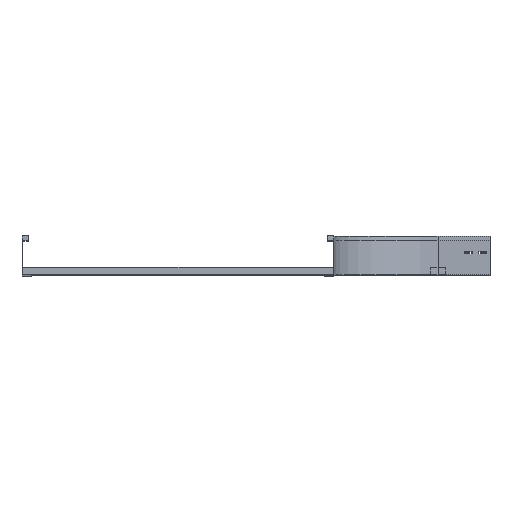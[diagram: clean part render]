
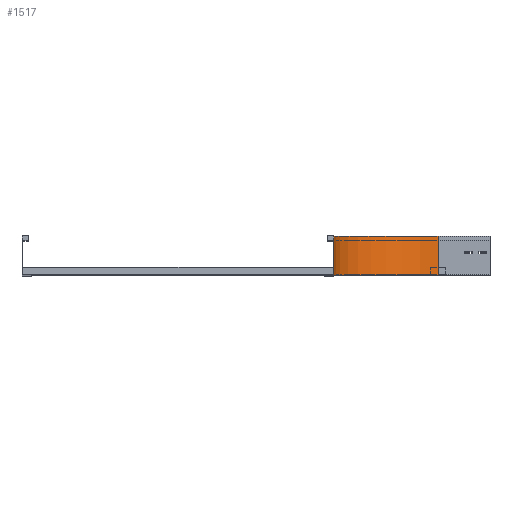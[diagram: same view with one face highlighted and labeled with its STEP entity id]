
A CAD part, top view. The second image highlights one B-rep face of the part: STEP entity #1517.
In plain terms, the highlighted cylindrical face has radius 300 mm (diameter 600 mm), a partial arc.
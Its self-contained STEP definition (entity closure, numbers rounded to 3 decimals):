
#2 = VECTOR ( 'NONE', #3170, 1000. ) ;
#235 = DIRECTION ( 'NONE',  ( -1., 0., 0. ) ) ;
#318 = VERTEX_POINT ( 'NONE', #3096 ) ;
#321 = DIRECTION ( 'NONE',  ( 0., 0., -1. ) ) ;
#341 = FACE_OUTER_BOUND ( 'NONE', #3531, .T. ) ;
#543 = EDGE_CURVE ( 'NONE', #318, #2869, #2296, .T. ) ;
#622 = CARTESIAN_POINT ( 'NONE',  ( 0., 112.5, -150. ) ) ;
#889 = CARTESIAN_POINT ( 'NONE',  ( 0., 0., -150. ) ) ;
#890 = CYLINDRICAL_SURFACE ( 'NONE', #2151, 300. ) ;
#1053 = CARTESIAN_POINT ( 'NONE',  ( 300., 0., -450. ) ) ;
#1140 = DIRECTION ( 'NONE',  ( 0., -1., 0. ) ) ;
#1176 = VERTEX_POINT ( 'NONE', #2724 ) ;
#1178 = EDGE_CURVE ( 'NONE', #1609, #2869, #2343, .T. ) ;
#1246 = DIRECTION ( 'NONE',  ( 0., -1., 0. ) ) ;
#1310 = AXIS2_PLACEMENT_3D ( 'NONE', #1373, #1140, #235 ) ;
#1373 = CARTESIAN_POINT ( 'NONE',  ( 300., 0., -150. ) ) ;
#1517 = ADVANCED_FACE ( 'NONE', ( #341 ), #890, .F. ) ;
#1609 = VERTEX_POINT ( 'NONE', #622 ) ;
#1793 = ORIENTED_EDGE ( 'NONE', *, *, #1841, .F. ) ;
#1832 = CARTESIAN_POINT ( 'NONE',  ( 300., 0., -150. ) ) ;
#1841 = EDGE_CURVE ( 'NONE', #1176, #1609, #2428, .T. ) ;
#2105 = ORIENTED_EDGE ( 'NONE', *, *, #1178, .F. ) ;
#2151 = AXIS2_PLACEMENT_3D ( 'NONE', #1832, #3032, #321 ) ;
#2210 = AXIS2_PLACEMENT_3D ( 'NONE', #3657, #1246, #3579 ) ;
#2240 = ORIENTED_EDGE ( 'NONE', *, *, #3329, .T. ) ;
#2296 = LINE ( 'NONE', #1053, #2 ) ;
#2323 = CIRCLE ( 'NONE', #1310, 300. ) ;
#2343 = CIRCLE ( 'NONE', #2210, 300. ) ;
#2428 = LINE ( 'NONE', #889, #2964 ) ;
#2724 = CARTESIAN_POINT ( 'NONE',  ( 0., 0., -150. ) ) ;
#2869 = VERTEX_POINT ( 'NONE', #3377 ) ;
#2964 = VECTOR ( 'NONE', #3594, 1000. ) ;
#3032 = DIRECTION ( 'NONE',  ( 0., -1., 0. ) ) ;
#3096 = CARTESIAN_POINT ( 'NONE',  ( 300., 0., -450. ) ) ;
#3170 = DIRECTION ( 'NONE',  ( 0., 1., 0. ) ) ;
#3329 = EDGE_CURVE ( 'NONE', #1176, #318, #2323, .T. ) ;
#3377 = CARTESIAN_POINT ( 'NONE',  ( 300., 112.5, -450. ) ) ;
#3531 = EDGE_LOOP ( 'NONE', ( #2105, #1793, #2240, #3705 ) ) ;
#3579 = DIRECTION ( 'NONE',  ( -1., 0., 0. ) ) ;
#3594 = DIRECTION ( 'NONE',  ( 0., 1., 0. ) ) ;
#3657 = CARTESIAN_POINT ( 'NONE',  ( 300., 112.5, -150. ) ) ;
#3705 = ORIENTED_EDGE ( 'NONE', *, *, #543, .T. ) ;
